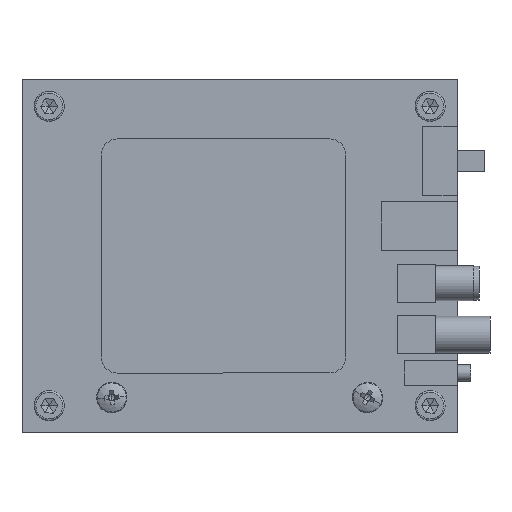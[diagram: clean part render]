
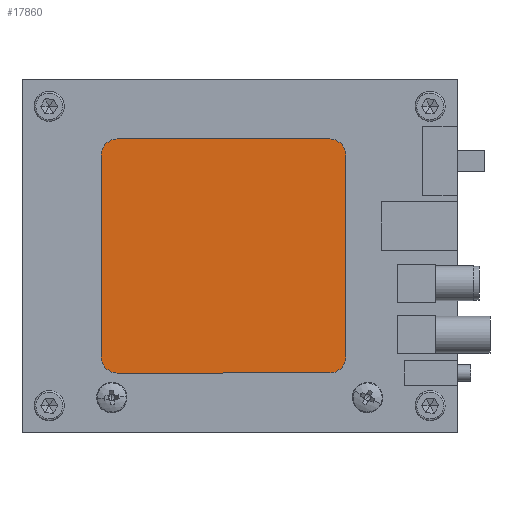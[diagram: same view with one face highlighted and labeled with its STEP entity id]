
A CAD part, front view. The second image highlights one B-rep face of the part: STEP entity #17860.
In plain terms, the highlighted planar face has unit normal (0, -1, 0).
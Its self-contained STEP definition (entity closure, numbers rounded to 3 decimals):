
#44 = CARTESIAN_POINT ( 'NONE',  ( 16.238, 5.804, 21.5 ) ) ;
#306 = EDGE_CURVE ( 'NONE', #26292, #12327, #26708, .T. ) ;
#466 = AXIS2_PLACEMENT_3D ( 'NONE', #2223, #17309, #4384 ) ;
#710 = VECTOR ( 'NONE', #11920, 1000. ) ;
#931 = ORIENTED_EDGE ( 'NONE', *, *, #23468, .T. ) ;
#2223 = CARTESIAN_POINT ( 'NONE',  ( -22.762, 5.804, 18.5 ) ) ;
#3086 = CIRCLE ( 'NONE', #4022, 3. ) ;
#3161 = CARTESIAN_POINT ( 'NONE',  ( 16.238, 5.804, -21.5 ) ) ;
#4022 = AXIS2_PLACEMENT_3D ( 'NONE', #9984, #25044, #12149 ) ;
#4359 = EDGE_CURVE ( 'NONE', #24670, #11134, #11691, .T. ) ;
#4384 = DIRECTION ( 'NONE',  ( 0., 0., -1. ) ) ;
#4389 = CARTESIAN_POINT ( 'NONE',  ( 16.238, 5.804, -21.5 ) ) ;
#4433 = ORIENTED_EDGE ( 'NONE', *, *, #12300, .T. ) ;
#4619 = DIRECTION ( 'NONE',  ( 0., -1., 0. ) ) ;
#4771 = ORIENTED_EDGE ( 'NONE', *, *, #7865, .T. ) ;
#5041 = VERTEX_POINT ( 'NONE', #27215 ) ;
#5714 = ORIENTED_EDGE ( 'NONE', *, *, #20240, .T. ) ;
#5797 = CARTESIAN_POINT ( 'NONE',  ( -22.762, 5.804, -21.5 ) ) ;
#5887 = DIRECTION ( 'NONE',  ( 0., 0., -1. ) ) ;
#6408 = AXIS2_PLACEMENT_3D ( 'NONE', #13332, #4619, #13243 ) ;
#7053 = PLANE ( 'NONE',  #16117 ) ;
#7865 = EDGE_CURVE ( 'NONE', #25327, #24670, #17261, .T. ) ;
#8058 = CARTESIAN_POINT ( 'NONE',  ( 16.238, 5.804, 18.5 ) ) ;
#8286 = CARTESIAN_POINT ( 'NONE',  ( -22.762, 5.804, 21.5 ) ) ;
#8548 = DIRECTION ( 'NONE',  ( 0., 0., 1. ) ) ;
#8951 = FACE_OUTER_BOUND ( 'NONE', #10789, .T. ) ;
#9254 = DIRECTION ( 'NONE',  ( 0., 0., 1. ) ) ;
#9426 = VECTOR ( 'NONE', #19131, 1000. ) ;
#9495 = CARTESIAN_POINT ( 'NONE',  ( 19.238, 5.804, 18.5 ) ) ;
#9743 = VECTOR ( 'NONE', #22743, 1000. ) ;
#9984 = CARTESIAN_POINT ( 'NONE',  ( -22.762, 5.804, -18.5 ) ) ;
#10789 = EDGE_LOOP ( 'NONE', ( #21077, #11469, #931, #23569, #5714, #4771, #23986, #4433 ) ) ;
#11134 = VERTEX_POINT ( 'NONE', #25329 ) ;
#11435 = VECTOR ( 'NONE', #8548, 1000. ) ;
#11469 = ORIENTED_EDGE ( 'NONE', *, *, #26406, .T. ) ;
#11691 = CIRCLE ( 'NONE', #6408, 3. ) ;
#11920 = DIRECTION ( 'NONE',  ( 1., 0., 0. ) ) ;
#12149 = DIRECTION ( 'NONE',  ( 0., 0., 1. ) ) ;
#12300 = EDGE_CURVE ( 'NONE', #11134, #26292, #17137, .T. ) ;
#12327 = VERTEX_POINT ( 'NONE', #44 ) ;
#12679 = AXIS2_PLACEMENT_3D ( 'NONE', #8058, #20974, #5887 ) ;
#13243 = DIRECTION ( 'NONE',  ( 0., 0., 1. ) ) ;
#13332 = CARTESIAN_POINT ( 'NONE',  ( 16.238, 5.804, -18.5 ) ) ;
#14387 = CARTESIAN_POINT ( 'NONE',  ( -25.762, 5.804, 18.5 ) ) ;
#14551 = EDGE_CURVE ( 'NONE', #26465, #5041, #20858, .T. ) ;
#15456 = LINE ( 'NONE', #24927, #9743 ) ;
#16117 = AXIS2_PLACEMENT_3D ( 'NONE', #26407, #22146, #9254 ) ;
#17137 = LINE ( 'NONE', #25729, #11435 ) ;
#17261 = LINE ( 'NONE', #3161, #710 ) ;
#17309 = DIRECTION ( 'NONE',  ( 0., -1., 0. ) ) ;
#17860 = ADVANCED_FACE ( 'NONE', ( #8951 ), #7053, .F. ) ;
#17872 = CIRCLE ( 'NONE', #466, 3. ) ;
#19040 = CARTESIAN_POINT ( 'NONE',  ( -25.762, 5.804, -18.5 ) ) ;
#19131 = DIRECTION ( 'NONE',  ( 0., 0., -1. ) ) ;
#20240 = EDGE_CURVE ( 'NONE', #5041, #25327, #3086, .T. ) ;
#20858 = LINE ( 'NONE', #19040, #9426 ) ;
#20974 = DIRECTION ( 'NONE',  ( 0., -1., 0. ) ) ;
#21063 = VERTEX_POINT ( 'NONE', #8286 ) ;
#21077 = ORIENTED_EDGE ( 'NONE', *, *, #306, .T. ) ;
#22146 = DIRECTION ( 'NONE',  ( 0., 1., 0. ) ) ;
#22743 = DIRECTION ( 'NONE',  ( -1., 0., 0. ) ) ;
#23468 = EDGE_CURVE ( 'NONE', #21063, #26465, #17872, .T. ) ;
#23569 = ORIENTED_EDGE ( 'NONE', *, *, #14551, .T. ) ;
#23986 = ORIENTED_EDGE ( 'NONE', *, *, #4359, .T. ) ;
#24670 = VERTEX_POINT ( 'NONE', #4389 ) ;
#24927 = CARTESIAN_POINT ( 'NONE',  ( -22.762, 5.804, 21.5 ) ) ;
#25044 = DIRECTION ( 'NONE',  ( 0., -1., 0. ) ) ;
#25327 = VERTEX_POINT ( 'NONE', #5797 ) ;
#25329 = CARTESIAN_POINT ( 'NONE',  ( 19.238, 5.804, -18.5 ) ) ;
#25729 = CARTESIAN_POINT ( 'NONE',  ( 19.238, 5.804, 18.5 ) ) ;
#26292 = VERTEX_POINT ( 'NONE', #9495 ) ;
#26406 = EDGE_CURVE ( 'NONE', #12327, #21063, #15456, .T. ) ;
#26407 = CARTESIAN_POINT ( 'NONE',  ( -40.291, 5.804, -35.51 ) ) ;
#26465 = VERTEX_POINT ( 'NONE', #14387 ) ;
#26708 = CIRCLE ( 'NONE', #12679, 3. ) ;
#27215 = CARTESIAN_POINT ( 'NONE',  ( -25.762, 5.804, -18.5 ) ) ;
